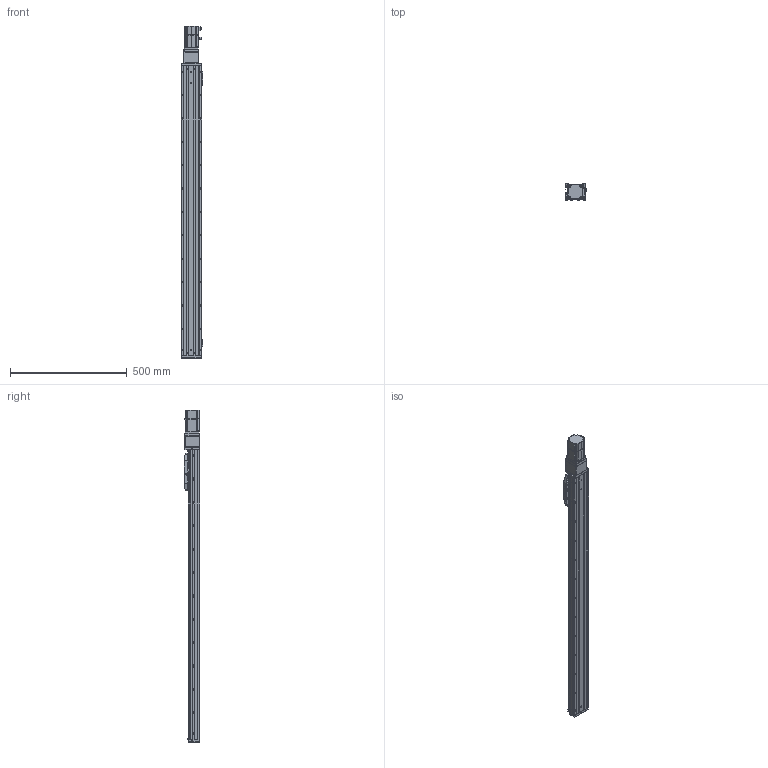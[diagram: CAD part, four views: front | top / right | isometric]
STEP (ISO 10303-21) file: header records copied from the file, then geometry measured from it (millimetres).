
FILE_DESCRIPTION (( 'STEP AP203' ), '1' );
FILE_NAME ('CTHA86-1050-BC-M20-C4L.step', '2022-04-26T00:45:43', ( '微软用户' ), ( '微软中国' ), 'SwSTEP 2.0', 'SolidWorks 2020', '' );
FILE_SCHEMA (( 'CONFIG_CONTROL_DESIGN' ));
Length unit declared in the file: millimetre
Products named in the file (22): CTHA86-013; CTHA86-030; KTHA86-001_1240; GBT77-2000 M3×3; CTHA86-027; CTHA86-1050-BC-M20-C4L; KTHA86-004; GBT 70.1-M3×20; CTHA86-006-1_CTHA86-006-2; KTHA86-005; GBT70.1 M5℅16; _X2_4E0983F1_X0_200W_1; GB¨uT 70.2-M3¡Á5_M3¡Á6; GBT 70.1-M3×16; GBT 70.3-M3℅6; EE_SX911P_R; GBT 70.1-M3℅6; CTHA86-002; CTHA60-017; CTHA60-016; CTHA86-031; CTHA60-021
Assembly tree (65 placements, depth 2):
  CTHA86-1050-BC-M20-C4L
    KTHA86-001_1240
    KTHA86-004
    KTHA86-005
    GB¨uT 70.2-M3¡Á5_M3¡Á6  x10
    EE_SX911P_R  x3
    CTHA60-017  x3
    CTHA60-021  x2
    GBT77-2000 M3×3  x6
    GBT 70.1-M3×20
    GBT70.1 M5℅16  x14
    GBT 70.1-M3×16
    GBT 70.1-M3℅6  x6
    CTHA60-016  x2
    CTHA86-013
    CTHA86-027
    CTHA86-006-1_CTHA86-006-2
    _X2_4E0983F1_X0_200W_1
    GBT 70.3-M3℅6  x6
    CTHA86-002
    CTHA86-031
    CTHA86-030  x2
Bounding box: 93.82 x 68 x 1420.5 mm (x, y, z)
Volume: 4635641.8 mm3; surface area: 799720.8 mm2
Topology: 67 solids, 67 shells, 2814 faces, 6751 edges, 4156 vertices
Faces by surface type: plane 1476, cylinder 727, cone 398, torus 120, bspline 69, sphere 24
Entity records: 50859 total; most frequent: CARTESIAN_POINT 9408, DIRECTION 8038, ORIENTED_EDGE 7758, EDGE_CURVE 3879, AXIS2_PLACEMENT_3D 2722, VECTOR 2594, LINE 2594, VERTEX_POINT 2434
